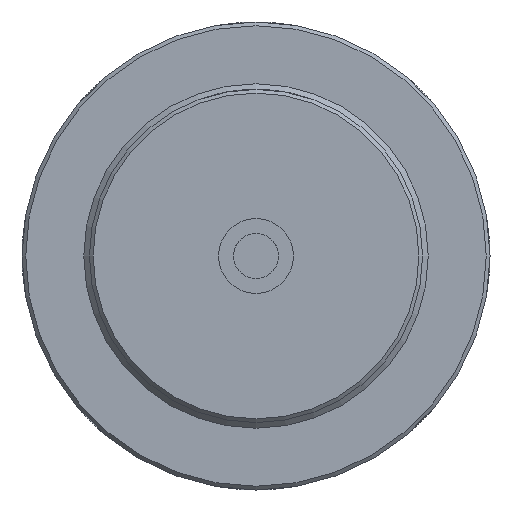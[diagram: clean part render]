
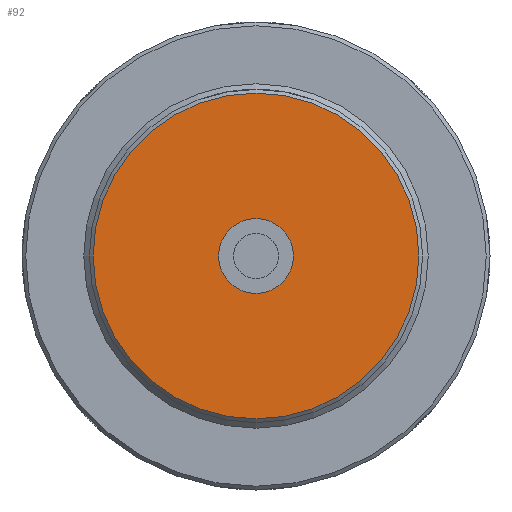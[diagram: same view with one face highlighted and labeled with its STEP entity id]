
A CAD part, left-side view. The second image highlights one B-rep face of the part: STEP entity #92.
In plain terms, the highlighted planar face has unit normal (-1, 0, 0).
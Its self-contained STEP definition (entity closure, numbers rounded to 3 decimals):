
#92 = ADVANCED_FACE( '', ( #181, #182 ), #183, .T. );
#181 = FACE_OUTER_BOUND( '', #325, .T. );
#182 = FACE_BOUND( '', #326, .T. );
#183 = PLANE( '', #327 );
#325 = EDGE_LOOP( '', ( #503 ) );
#326 = EDGE_LOOP( '', ( #504 ) );
#327 = AXIS2_PLACEMENT_3D( '', #505, #506, #507 );
#503 = ORIENTED_EDGE( '', *, *, #672, .T. );
#504 = ORIENTED_EDGE( '', *, *, #673, .F. );
#505 = CARTESIAN_POINT( '', ( 0., 0., 10. ) );
#506 = DIRECTION( '', ( -1., 0., 0. ) );
#507 = DIRECTION( '', ( 0., 0., 1. ) );
#672 = EDGE_CURVE( '', #746, #746, #747, .T. );
#673 = EDGE_CURVE( '', #748, #748, #749, .T. );
#746 = VERTEX_POINT( '', #1452 );
#747 = CIRCLE( '', #1453, 43.5 );
#748 = VERTEX_POINT( '', #1454 );
#749 = CIRCLE( '', #1455, 10. );
#1452 = CARTESIAN_POINT( '', ( 0., 0., 43.5 ) );
#1453 = AXIS2_PLACEMENT_3D( '', #1540, #1541, #1542 );
#1454 = CARTESIAN_POINT( '', ( 0., 0., 10. ) );
#1455 = AXIS2_PLACEMENT_3D( '', #1543, #1544, #1545 );
#1540 = CARTESIAN_POINT( '', ( 0., 0., 0. ) );
#1541 = DIRECTION( '', ( -1., 0., 0. ) );
#1542 = DIRECTION( '', ( 0., 0., 1. ) );
#1543 = CARTESIAN_POINT( '', ( 0., 0., 0. ) );
#1544 = DIRECTION( '', ( -1., 0., 0. ) );
#1545 = DIRECTION( '', ( 0., 0., 1. ) );
